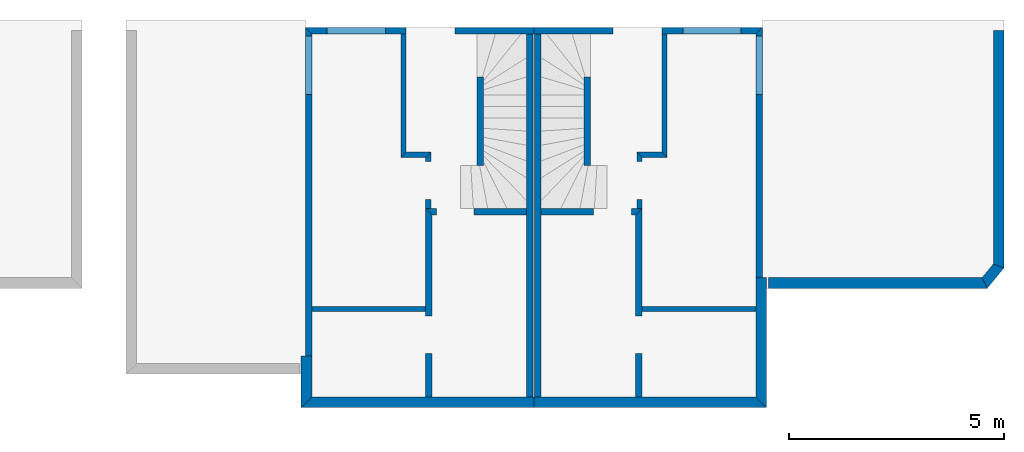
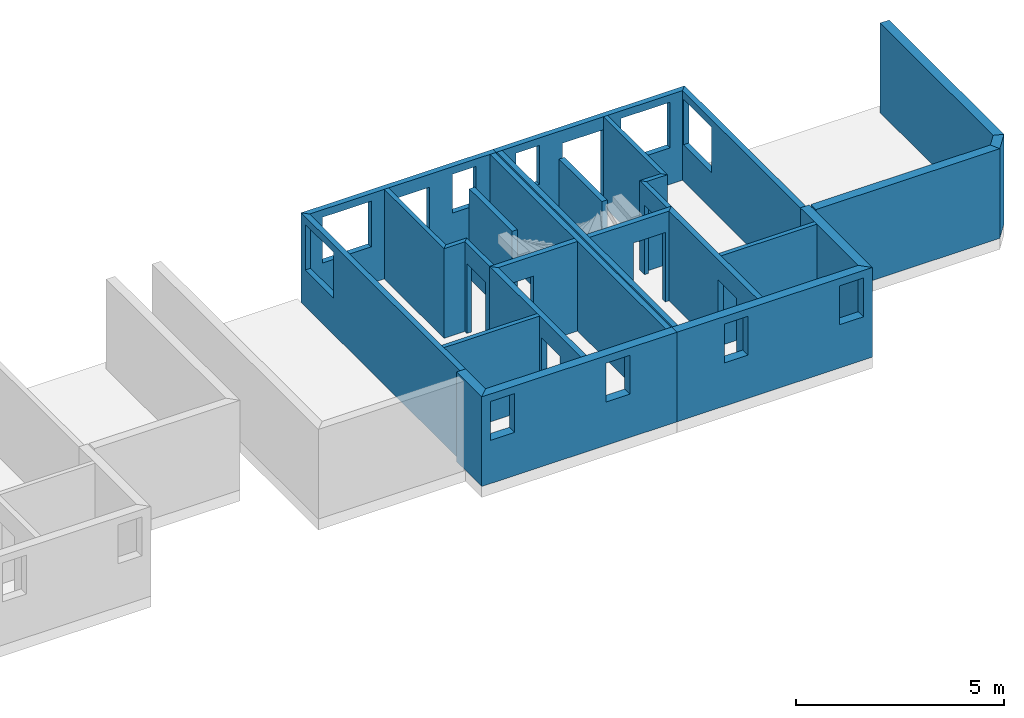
# One storey, part 2 of 2: 27 walls, 18 openings.
"""IFC2X3 building model written with IfcOpenShell, lengths in metres."""

from ifc_helpers import new_model, entity, si_unit, converted_unit, money_unit, direction, frame, origin_with_axes, origin_2d_with_axis, place, context, subcontext, project, spatial, polyline, rectangle, outline, extrude, material, layer, layer_set, layer_usage, type_object, element, save


model = new_model("IFC2X3")

# Units and contexts
model_context = context("Model", 3, precision=1e-05, world=origin_with_axes(), true_north=direction((0.0, 1.0)))
body_context = subcontext(model_context, "Body", "Model", "MODEL_VIEW")
ifc_project = project(units=[si_unit("LENGTHUNIT", "METRE"), si_unit("AREAUNIT", "SQUARE_METRE"), si_unit("VOLUMEUNIT", "CUBIC_METRE"), converted_unit("PLANEANGLEUNIT", "DEGREE", entity("IfcPlaneAngleMeasure", 0.0174532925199), si_unit("PLANEANGLEUNIT", "RADIAN"), dimensions=[0, 0, 0, 0, 0, 0, 0]), si_unit("SOLIDANGLEUNIT", "STERADIAN"), money_unit("EUR"), si_unit("TIMEUNIT", "SECOND"), si_unit("MASSUNIT", "GRAM"), si_unit("THERMODYNAMICTEMPERATUREUNIT", "DEGREE_CELSIUS"), si_unit("LUMINOUSINTENSITYUNIT", "LUMEN")], contexts=[model_context])

# Site, building, storey
site_placement = place(None, origin_with_axes())
site = spatial("IfcSite", under=ifc_project, at=site_placement, Name="Gelände", CompositionType="ELEMENT")
building_placement = place(site_placement, origin_with_axes())
building = spatial("IfcBuilding", under=site, at=building_placement, Name="Gebäude", CompositionType="ELEMENT")
storey_placement = place(building_placement, frame((0.0, 0.0, -2.63), z_axis=(0.0, 0.0, 1.0), x_axis=(1.0, 0.0, 0.0)))
storey = spatial("IfcBuildingStorey", under=building, at=storey_placement, Name="Untergeschoss", CompositionType="ELEMENT", Elevation=-2.63)

# Walls
ifc_material_1 = material(Name="Beton, Stahlbeton")
ifc_layer_1 = layer(ifc_material_1, 0.25, ventilated="UNKNOWN")
ifc_layer_set_1 = layer_set([ifc_layer_1], Name="Beton, Stahlbeton 0.25")
ifc_layer_usage_1 = layer_usage(ifc_layer_set_1, "AXIS2", "NEGATIVE", 0.0)
wall_type_1 = type_object("IfcWallType", Name="Beton, Stahlbeton 250", PredefinedType="NOTDEFINED")
wall_1_placement = place(storey_placement, frame((43.3239027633, 1.187793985, 0.0), z_axis=(0.0, 0.0, 1.0), x_axis=(0.0, -1.0, 0.0)))
element("IfcWallStandardCase", 1, at=wall_1_placement, inside=storey, type_object=wall_type_1, material=ifc_layer_usage_1, Name="Aussenwand D", context=body_context, shape_type="SweptSolid", body=[
    extrude(outline(polyline([(0.0, -0.25), (5.43537454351, -0.25), (5.5248332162, 0.0), (0.0, 0.0), (0.0, -0.25)])), origin_with_axes(), (0.0, 0.0, 1.0), 2.63),
])
ifc_layer_usage_2 = layer_usage(ifc_layer_set_1, "AXIS2", "NEGATIVE", 0.0)
wall_2_placement = place(storey_placement, frame((42.9339027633, -4.81220583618, 0.0), z_axis=(0.0, 0.0, 1.0), x_axis=(-1.0, 0.0, 0.0)))
element("IfcWallStandardCase", 2, at=wall_2_placement, inside=storey, type_object=wall_type_1, material=ifc_layer_usage_2, Name="Aussenwand D", context=body_context, shape_type="SweptSolid", body=[
    extrude(outline(polyline([(0.118233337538, -0.25), (5.09999988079, -0.25), (5.09999988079, 0.0), (0.0, 0.0), (0.118233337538, -0.25)])), origin_with_axes(), (0.0, 0.0, 1.0), 2.63),
])
ifc_layer_usage_3 = layer_usage(ifc_layer_set_1, "AXIS2", "NEGATIVE", 0.0)
wall_3_placement = place(storey_placement, frame((37.7939028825, -4.56220583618, 0.0), z_axis=(0.0, 0.0, 1.0), x_axis=(0.0, -1.0, 0.0)))
element("IfcWallStandardCase", 3, at=wall_3_placement, inside=storey, type_object=wall_type_1, material=ifc_layer_usage_3, Name="Aussenwand D", context=body_context, shape_type="SweptSolid", body=[
    extrude(outline(polyline([(0.0, -0.25), (2.78000010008, -0.25), (3.03000010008, 0.0), (0.0, 0.0), (0.0, -0.25)])), origin_with_axes(), (0.0, 0.0, 1.0), 2.63),
])

# Wall, openings
ifc_layer_usage_4 = layer_usage(ifc_layer_set_1, "AXIS2", "NEGATIVE", 0.0)
wall_4_placement = place(storey_placement, frame((37.7939028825, -7.59220593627, 0.0), z_axis=(0.0, 0.0, 1.0), x_axis=(-1.0, 0.0, 0.0)))
wall_4 = element("IfcWallStandardCase", 4, at=wall_4_placement, inside=storey, type_object=wall_type_1, material=ifc_layer_usage_4, Name="Aussenwand D", context=body_context, shape_type="SweptSolid", body=[
    extrude(outline(polyline([(0.25, -0.25), (5.41996185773, -0.25), (5.41996185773, 0.0), (0.0, 0.0), (0.25, -0.25)])), origin_with_axes(), (0.0, 0.0, 1.0), 2.63),
])
opening_1_placement = place(wall_4_placement, frame((0.58, 0.0, 1.27), z_axis=(0.0, 0.0, 1.0), x_axis=(1.0, 0.0, 0.0)))
element("IfcOpeningElement", 5, at=opening_1_placement, cuts=wall_4, Name="Fenster D", context=body_context, shape_type="SweptSolid", body=[
    extrude(rectangle(XDim=0.66, YDim=1.14, at=origin_2d_with_axis()), frame((0.0, -0.1, 0.57), z_axis=(0.0, 1.0, 0.0), x_axis=(1.0, 0.0, 0.0)), (0.0, 0.0, -1.0), 0.25),
    extrude(rectangle(XDim=0.66, YDim=1.14, at=origin_2d_with_axis()), frame((0.0, -0.1, 0.57), z_axis=(0.0, -1.0, 0.0), x_axis=(1.0, 0.0, 0.0)), (0.0, 0.0, -1.0), 0.25),
])
opening_2_placement = place(wall_4_placement, frame((3.78, 0.0, 1.27), z_axis=(0.0, 0.0, 1.0), x_axis=(1.0, 0.0, 0.0)))
element("IfcOpeningElement", 6, at=opening_2_placement, cuts=wall_4, Name="Fenster D", context=body_context, shape_type="SweptSolid", body=[
    extrude(rectangle(XDim=0.66, YDim=1.14, at=origin_2d_with_axis()), frame((0.0, -0.15, 0.57), z_axis=(0.0, -1.0, 0.0), x_axis=(1.0, 0.0, 0.0)), (0.0, 0.0, -1.0), 0.25),
    extrude(rectangle(XDim=0.66, YDim=1.14, at=origin_2d_with_axis()), frame((0.0, -0.15, 0.57), z_axis=(0.0, 1.0, 0.0), x_axis=(1.0, 0.0, 0.0)), (0.0, 0.0, -1.0), 0.25),
])

# Walls
ifc_layer_usage_5 = layer_usage(ifc_layer_set_1, "AXIS2", "POSITIVE", 0.0)
wall_5_placement = place(storey_placement, frame((42.9339027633, -4.81220583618, 0.0), z_axis=(0.0, 0.0, 1.0), x_axis=(0.634432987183, 0.77297786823, 0.0)))
element("IfcWallStandardCase", 7, at=wall_5_placement, inside=storey, type_object=wall_type_1, material=ifc_layer_usage_5, Name="Aussenwand D", context=body_context, shape_type="SweptSolid", body=[
    extrude(outline(polyline([(0.0, 0.0), (0.614722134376, 0.0), (0.525263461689, 0.25), (0.118233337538, 0.25), (0.0, 0.0)])), origin_with_axes(), (0.0, 0.0, 1.0), 2.63),
])
ifc_layer_usage_6 = layer_usage(ifc_layer_set_1, "AXIS2", "POSITIVE", 0.0)
wall_6_placement = place(storey_placement, frame((26.9539791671, -6.38220593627, 0.0), z_axis=(0.0, 0.0, 1.0), x_axis=(0.0, -1.0, 0.0)))
element("IfcWallStandardCase", 8, at=wall_6_placement, inside=storey, type_object=wall_type_1, material=ifc_layer_usage_6, Name="Aussenwand C", context=body_context, shape_type="SweptSolid", body=[
    extrude(outline(polyline([(0.0, 0.0), (1.21, 0.0), (0.96, 0.25), (0.0, 0.25), (0.0, 0.0)])), origin_with_axes(), (0.0, 0.0, 1.0), 2.63),
])

# Wall, openings
ifc_layer_usage_7 = layer_usage(ifc_layer_set_1, "AXIS2", "POSITIVE", 0.0)
wall_7_placement = place(storey_placement, frame((26.9539791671, -7.59220593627, 0.0), z_axis=(0.0, 0.0, 1.0), x_axis=(1.0, 0.0, 0.0)))
wall_7 = element("IfcWallStandardCase", 9, at=wall_7_placement, inside=storey, type_object=wall_type_1, material=ifc_layer_usage_7, Name="Aussenwand C", context=body_context, shape_type="SweptSolid", body=[
    extrude(outline(polyline([(0.0, 0.0), (5.41996185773, 0.0), (5.41996185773, 0.25), (0.25, 0.25), (0.0, 0.0)])), origin_with_axes(), (0.0, 0.0, 1.0), 2.63),
])
opening_3_placement = place(wall_7_placement, frame((0.58, 0.0, 1.27), z_axis=(0.0, 0.0, 1.0), x_axis=(1.0, 0.0, 0.0)))
element("IfcOpeningElement", 10, at=opening_3_placement, cuts=wall_7, Name="Fenster C", context=body_context, shape_type="SweptSolid", body=[
    extrude(rectangle(XDim=0.66, YDim=1.14, at=origin_2d_with_axis()), frame((0.0, 0.1, 0.57), z_axis=(0.0, -1.0, 0.0), x_axis=(1.0, 0.0, 0.0)), (0.0, 0.0, -1.0), 0.25),
    extrude(rectangle(XDim=0.66, YDim=1.14, at=origin_2d_with_axis()), frame((0.0, 0.1, 0.57), z_axis=(0.0, 1.0, 0.0), x_axis=(1.0, 0.0, 0.0)), (0.0, 0.0, -1.0), 0.25),
])
opening_4_placement = place(wall_7_placement, frame((3.78, 0.0, 1.27), z_axis=(0.0, 0.0, 1.0), x_axis=(1.0, 0.0, 0.0)))
element("IfcOpeningElement", 11, at=opening_4_placement, cuts=wall_7, Name="Fenster C", context=body_context, shape_type="SweptSolid", body=[
    extrude(rectangle(XDim=0.66, YDim=1.14, at=origin_2d_with_axis()), frame((0.0, 0.15, 0.57), z_axis=(0.0, 1.0, 0.0), x_axis=(1.0, 0.0, 0.0)), (0.0, 0.0, -1.0), 0.25),
    extrude(rectangle(XDim=0.66, YDim=1.14, at=origin_2d_with_axis()), frame((0.0, 0.15, 0.57), z_axis=(0.0, -1.0, 0.0), x_axis=(1.0, 0.0, 0.0)), (0.0, 0.0, -1.0), 0.25),
])

# Wall, opening
ifc_layer_2 = layer(ifc_material_1, 0.15, ventilated="UNKNOWN")
ifc_layer_set_2 = layer_set([ifc_layer_2], Name="Beton, Stahlbeton 0.15")
ifc_layer_usage_8 = layer_usage(ifc_layer_set_2, "AXIS2", "NEGATIVE", 0.0)
wall_type_2 = type_object("IfcWallType", Name="Beton, Stahlbeton 150", PredefinedType="NOTDEFINED")
wall_8_placement = place(storey_placement, frame((37.5439028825, -4.56220583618, 0.0), z_axis=(0.0, 0.0, 1.0), x_axis=(0.0, 1.0, 0.0)))
wall_8 = element("IfcWallStandardCase", 12, at=wall_8_placement, inside=storey, type_object=wall_type_2, material=ifc_layer_usage_8, Name="Aussenwand D", context=body_context, shape_type="SweptSolid", body=[
    extrude(outline(polyline([(0.0, -0.15), (5.81999982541, -0.15), (5.66999982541, 0.0), (0.0, 0.0), (0.0, -0.15)])), origin_with_axes(), (0.0, 0.0, 1.0), 2.63),
])
opening_5_placement = place(wall_8_placement, frame((4.94232744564, 0.0, 1.07), z_axis=(0.0, 0.0, 1.0), x_axis=(1.0, 0.0, 0.0)))
element("IfcOpeningElement", 13, at=opening_5_placement, cuts=wall_8, Name="Fenster D", context=body_context, shape_type="SweptSolid", body=[
    extrude(rectangle(XDim=1.36, YDim=1.34, at=origin_2d_with_axis()), frame((0.0, 0.0, 0.67), z_axis=(0.0, 1.0, 0.0), x_axis=(1.0, 0.0, 0.0)), (0.0, 0.0, -1.0), 0.15),
    extrude(rectangle(XDim=1.36, YDim=1.34, at=origin_2d_with_axis()), frame((0.0, 0.0, 0.67), z_axis=(0.0, -1.0, 0.0), x_axis=(1.0, 0.0, 0.0)), (0.0, 0.0, -1.0), 0.15),
])

# Wall, openings
ifc_layer_usage_9 = layer_usage(ifc_layer_set_2, "AXIS2", "POSITIVE", 0.0)
wall_9_placement = place(storey_placement, frame((37.5439028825, 1.25779398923, 0.0), z_axis=(0.0, 0.0, 1.0), x_axis=(-1.0, 0.0, 0.0)))
wall_9 = element("IfcWallStandardCase", 14, at=wall_9_placement, inside=storey, type_object=wall_type_2, material=ifc_layer_usage_9, Name="Aussenwand D", context=body_context, shape_type="SweptSolid", body=[
    extrude(outline(polyline([(-0.15, 0.0), (5.16996185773, 0.0), (5.16996185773, 0.15), (0.0, 0.15), (-0.15, 0.0)])), origin_with_axes(), (0.0, 0.0, 1.0), 2.63),
])
opening_6_placement = place(wall_9_placement, frame((4.29, 0.0, 1.27), z_axis=(0.0, 0.0, 1.0), x_axis=(1.0, 0.0, 0.0)))
element("IfcOpeningElement", 15, at=opening_6_placement, cuts=wall_9, Name="Fenster D", context=body_context, shape_type="SweptSolid", body=[
    extrude(rectangle(XDim=0.66, YDim=1.14, at=origin_2d_with_axis()), frame((0.0, 0.0, 0.57), z_axis=(0.0, -1.0, 0.0), x_axis=(1.0, 0.0, 0.0)), (0.0, 0.0, -1.0), 0.15),
    extrude(rectangle(XDim=0.66, YDim=1.14, at=origin_2d_with_axis()), frame((0.0, 0.0, 0.57), z_axis=(0.0, 1.0, 0.0), x_axis=(1.0, 0.0, 0.0)), (0.0, 0.0, -1.0), 0.15),
])
opening_7_placement = place(wall_9_placement, frame((1.02, 0.0, 1.07), z_axis=(0.0, 0.0, 1.0), x_axis=(1.0, 0.0, 0.0)))
element("IfcOpeningElement", 16, at=opening_7_placement, cuts=wall_9, Name="Fenster A", context=body_context, shape_type="SweptSolid", body=[
    extrude(rectangle(XDim=1.36, YDim=1.34, at=origin_2d_with_axis()), frame((0.0, 0.0, 0.67), z_axis=(0.0, -1.0, 0.0), x_axis=(1.0, 0.0, 0.0)), (0.0, 0.0, -1.0), 0.15),
    extrude(rectangle(XDim=1.36, YDim=1.34, at=origin_2d_with_axis()), frame((0.0, 0.0, 0.67), z_axis=(0.0, 1.0, 0.0), x_axis=(1.0, 0.0, 0.0)), (0.0, 0.0, -1.0), 0.15),
])
opening_8_placement = place(wall_9_placement, frame((2.76, 0.0, 0.0), z_axis=(0.0, 0.0, 1.0), x_axis=(1.0, 0.0, 0.0)))
element("IfcOpeningElement", 17, at=opening_8_placement, cuts=wall_9, Name="Tür D", context=body_context, shape_type="SweptSolid", body=[
    extrude(rectangle(XDim=1.14, YDim=2.25, at=origin_2d_with_axis()), frame((0.0, 0.15, 1.125), z_axis=(0.0, -1.0, 0.0), x_axis=(1.0, 0.0, 0.0)), (0.0, 0.0, -1.0), 0.15),
    extrude(rectangle(XDim=1.14, YDim=2.25, at=origin_2d_with_axis()), frame((0.0, 0.15, 1.125), z_axis=(0.0, 1.0, 0.0), x_axis=(1.0, 0.0, 0.0)), (0.0, 0.0, -1.0), 0.15),
])

# Wall, opening
ifc_layer_usage_10 = layer_usage(ifc_layer_set_2, "AXIS2", "POSITIVE", 0.0)
wall_10_placement = place(storey_placement, frame((27.2039791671, -6.38220593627, 0.0), z_axis=(0.0, 0.0, 1.0), x_axis=(0.0, 1.0, 0.0)))
wall_10 = element("IfcWallStandardCase", 18, at=wall_10_placement, inside=storey, type_object=wall_type_2, material=ifc_layer_usage_10, Name="Aussenwand C", context=body_context, shape_type="SweptSolid", body=[
    extrude(outline(polyline([(0.0, 0.0), (7.48999992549, 0.0), (7.63999992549, 0.15), (0.0, 0.15), (0.0, 0.0)])), origin_with_axes(), (0.0, 0.0, 1.0), 2.63),
])
opening_9_placement = place(wall_10_placement, frame((6.76232754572, 0.0, 1.07), z_axis=(0.0, 0.0, 1.0), x_axis=(1.0, 0.0, 0.0)))
element("IfcOpeningElement", 19, at=opening_9_placement, cuts=wall_10, Name="Fenster C", context=body_context, shape_type="SweptSolid", body=[
    extrude(rectangle(XDim=1.36, YDim=1.34, at=origin_2d_with_axis()), frame((0.0, 0.0, 0.67), z_axis=(0.0, -1.0, 0.0), x_axis=(1.0, 0.0, 0.0)), (0.0, 0.0, -1.0), 0.15),
    extrude(rectangle(XDim=1.36, YDim=1.34, at=origin_2d_with_axis()), frame((0.0, 0.0, 0.67), z_axis=(0.0, 1.0, 0.0), x_axis=(1.0, 0.0, 0.0)), (0.0, 0.0, -1.0), 0.15),
])

# Wall, openings
ifc_layer_usage_11 = layer_usage(ifc_layer_set_2, "AXIS2", "NEGATIVE", 0.0)
wall_11_placement = place(storey_placement, frame((27.2039791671, 1.25779398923, 0.0), z_axis=(0.0, 0.0, 1.0), x_axis=(1.0, 0.0, 0.0)))
wall_11 = element("IfcWallStandardCase", 20, at=wall_11_placement, inside=storey, type_object=wall_type_2, material=ifc_layer_usage_11, Name="Aussenwand C", context=body_context, shape_type="SweptSolid", body=[
    extrude(outline(polyline([(0.0, -0.15), (5.16996185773, -0.15), (5.16996185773, 0.0), (-0.15, 0.0), (0.0, -0.15)])), origin_with_axes(), (0.0, 0.0, 1.0), 2.63),
])
opening_10_placement = place(wall_11_placement, frame((4.29, 0.0, 1.27), z_axis=(0.0, 0.0, 1.0), x_axis=(1.0, 0.0, 0.0)))
element("IfcOpeningElement", 21, at=opening_10_placement, cuts=wall_11, Name="Fenster C", context=body_context, shape_type="SweptSolid", body=[
    extrude(rectangle(XDim=0.66, YDim=1.14, at=origin_2d_with_axis()), frame((0.0, 0.0, 0.57), z_axis=(0.0, 1.0, 0.0), x_axis=(1.0, 0.0, 0.0)), (0.0, 0.0, -1.0), 0.15),
    extrude(rectangle(XDim=0.66, YDim=1.14, at=origin_2d_with_axis()), frame((0.0, 0.0, 0.57), z_axis=(0.0, -1.0, 0.0), x_axis=(1.0, 0.0, 0.0)), (0.0, 0.0, -1.0), 0.15),
])
opening_11_placement = place(wall_11_placement, frame((1.03, 0.0, 1.07), z_axis=(0.0, 0.0, 1.0), x_axis=(1.0, 0.0, 0.0)))
element("IfcOpeningElement", 22, at=opening_11_placement, cuts=wall_11, Name="Fenster A", context=body_context, shape_type="SweptSolid", body=[
    extrude(rectangle(XDim=1.36, YDim=1.34, at=origin_2d_with_axis()), frame((0.0, 0.0, 0.67), z_axis=(0.0, 1.0, 0.0), x_axis=(1.0, 0.0, 0.0)), (0.0, 0.0, -1.0), 0.15),
    extrude(rectangle(XDim=1.36, YDim=1.34, at=origin_2d_with_axis()), frame((0.0, 0.0, 0.67), z_axis=(0.0, -1.0, 0.0), x_axis=(1.0, 0.0, 0.0)), (0.0, 0.0, -1.0), 0.15),
])
opening_12_placement = place(wall_11_placement, frame((2.76, 0.0, 0.0), z_axis=(0.0, 0.0, 1.0), x_axis=(1.0, 0.0, 0.0)))
element("IfcOpeningElement", 23, at=opening_12_placement, cuts=wall_11, Name="Tür C", context=body_context, shape_type="SweptSolid", body=[
    extrude(rectangle(XDim=1.14, YDim=2.25, at=origin_2d_with_axis()), frame((0.0, -0.15, 1.125), z_axis=(0.0, 1.0, 0.0), x_axis=(1.0, 0.0, 0.0)), (0.0, 0.0, -1.0), 0.15),
    extrude(rectangle(XDim=1.14, YDim=2.25, at=origin_2d_with_axis()), frame((0.0, -0.15, 1.125), z_axis=(0.0, -1.0, 0.0), x_axis=(1.0, 0.0, 0.0)), (0.0, 0.0, -1.0), 0.15),
])

# Walls
ifc_material_2 = material(Name="MW, Kalksandstein")
ifc_layer_3 = layer(ifc_material_2, 0.12, ventilated="UNKNOWN")
ifc_layer_set_3 = layer_set([ifc_layer_3], Name="MW, Kalksandstein 0.12")
ifc_layer_usage_12 = layer_usage(ifc_layer_set_3, "AXIS2", "NEGATIVE", 0.0)
wall_type_3 = type_object("IfcWallType", Name="MW, Kalksandstein 120", PredefinedType="NOTDEFINED")
wall_12_placement = place(storey_placement, frame((37.7939028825, -5.35220593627, 0.0), z_axis=(0.0, 0.0, 1.0), x_axis=(-1.0, 0.0, 0.0)))
element("IfcWallStandardCase", 24, at=wall_12_placement, inside=storey, type_object=wall_type_3, material=ifc_layer_usage_12, Name="Innenwand D", context=body_context, shape_type="SweptSolid", body=[
    extrude(outline(polyline([(0.25, -0.12), (2.9, -0.12), (2.9, 0.0), (0.25, 0.0), (0.25, -0.12)])), origin_with_axes(), (0.0, 0.0, 1.0), 2.63),
])
ifc_layer_usage_13 = layer_usage(ifc_layer_set_3, "AXIS2", "POSITIVE", 0.0)
wall_13_placement = place(storey_placement, frame((34.8939028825, -1.76220593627, 0.0), z_axis=(0.0, 0.0, 1.0), x_axis=(1.0, 0.0, 0.0)))
element("IfcWallStandardCase", 25, at=wall_13_placement, inside=storey, type_object=wall_type_3, material=ifc_layer_usage_13, Name="Innenwand D", context=body_context, shape_type="SweptSolid", body=[
    extrude(outline(polyline([(0.0, 0.0), (0.58, 0.0), (0.46, 0.12), (-0.12, 0.12), (0.0, 0.0)])), origin_with_axes(), (0.0, 0.0, 1.0), 2.63),
])
ifc_layer_usage_14 = layer_usage(ifc_layer_set_3, "AXIS2", "POSITIVE", 0.0)
wall_14_placement = place(storey_placement, frame((35.4739028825, -1.76220593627, 0.0), z_axis=(0.0, 0.0, 1.0), x_axis=(0.0, 1.0, 0.0)))
element("IfcWallStandardCase", 26, at=wall_14_placement, inside=storey, type_object=wall_type_3, material=ifc_layer_usage_14, Name="Innenwand D", context=body_context, shape_type="SweptSolid", body=[
    extrude(outline(polyline([(0.0, 0.0), (2.86999992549, 0.0), (2.86999992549, 0.12), (0.12, 0.12), (0.0, 0.0)])), origin_with_axes(), (0.0, 0.0, 1.0), 2.63),
])

# Wall, opening
ifc_layer_usage_15 = layer_usage(ifc_layer_set_3, "AXIS2", "POSITIVE", 0.0)
wall_15_placement = place(storey_placement, frame((34.8939028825, -2.95220593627, 0.0), z_axis=(0.0, 0.0, 1.0), x_axis=(0.0, 1.0, 0.0)))
wall_15 = element("IfcWallStandardCase", 27, at=wall_15_placement, inside=storey, type_object=wall_type_3, material=ifc_layer_usage_15, Name="Innenwand D", context=body_context, shape_type="SweptSolid", body=[
    extrude(outline(polyline([(0.0, 0.0), (1.19, 0.0), (1.31, 0.12), (0.0, 0.12), (0.0, 0.0)])), origin_with_axes(), (0.0, 0.0, 1.0), 2.63),
])
opening_13_placement = place(wall_15_placement, frame((0.65, 0.0, 0.0), z_axis=(0.0, 0.0, 1.0), x_axis=(1.0, 0.0, 0.0)))
element("IfcOpeningElement", 28, at=opening_13_placement, cuts=wall_15, Name="Tür D", context=body_context, shape_type="SweptSolid", body=[
    extrude(rectangle(XDim=0.88, YDim=2.04, at=origin_2d_with_axis()), frame((0.0, 0.0, 1.02), z_axis=(0.0, 1.0, 0.0), x_axis=(1.0, 0.0, 0.0)), (0.0, 0.0, -1.0), 0.12),
    extrude(rectangle(XDim=0.88, YDim=2.04, at=origin_2d_with_axis()), frame((0.0, 0.0, 1.02), z_axis=(0.0, -1.0, 0.0), x_axis=(1.0, 0.0, 0.0)), (0.0, 0.0, -1.0), 0.12),
])

# Walls
ifc_layer_usage_16 = layer_usage(ifc_layer_set_3, "AXIS2", "POSITIVE", 0.0)
wall_16_placement = place(storey_placement, frame((27.2039791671, -5.35220593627, 0.0), z_axis=(0.0, 0.0, 1.0), x_axis=(1.0, 0.0, 0.0)))
element("IfcWallStandardCase", 29, at=wall_16_placement, inside=storey, type_object=wall_type_3, material=ifc_layer_usage_16, Name="Innenwand C", context=body_context, shape_type="SweptSolid", body=[
    extrude(outline(polyline([(0.0, 0.0), (2.65, 0.0), (2.65, 0.12), (0.0, 0.12), (0.0, 0.0)])), origin_with_axes(), (0.0, 0.0, 1.0), 2.63),
])
ifc_layer_usage_17 = layer_usage(ifc_layer_set_3, "AXIS2", "NEGATIVE", 0.0)
wall_17_placement = place(storey_placement, frame((29.8539791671, -1.76220593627, 0.0), z_axis=(0.0, 0.0, 1.0), x_axis=(-1.0, 0.0, 0.0)))
element("IfcWallStandardCase", 30, at=wall_17_placement, inside=storey, type_object=wall_type_3, material=ifc_layer_usage_17, Name="Innenwand C", context=body_context, shape_type="SweptSolid", body=[
    extrude(outline(polyline([(-0.12, -0.12), (0.46, -0.12), (0.58, 0.0), (0.0, 0.0), (-0.12, -0.12)])), origin_with_axes(), (0.0, 0.0, 1.0), 2.63),
])
ifc_layer_usage_18 = layer_usage(ifc_layer_set_3, "AXIS2", "NEGATIVE", 0.0)
wall_18_placement = place(storey_placement, frame((29.2739791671, -1.76220593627, 0.0), z_axis=(0.0, 0.0, 1.0), x_axis=(0.0, 1.0, 0.0)))
element("IfcWallStandardCase", 31, at=wall_18_placement, inside=storey, type_object=wall_type_3, material=ifc_layer_usage_18, Name="Innenwand C", context=body_context, shape_type="SweptSolid", body=[
    extrude(outline(polyline([(0.12, -0.12), (2.86999992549, -0.12), (2.86999992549, 0.0), (0.0, 0.0), (0.12, -0.12)])), origin_with_axes(), (0.0, 0.0, 1.0), 2.63),
])

# Wall, opening
ifc_layer_usage_19 = layer_usage(ifc_layer_set_3, "AXIS2", "NEGATIVE", 0.0)
wall_19_placement = place(storey_placement, frame((29.8539791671, -2.95220593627, 0.0), z_axis=(0.0, 0.0, 1.0), x_axis=(0.0, 1.0, 0.0)))
wall_19 = element("IfcWallStandardCase", 32, at=wall_19_placement, inside=storey, type_object=wall_type_3, material=ifc_layer_usage_19, Name="Innenwand C", context=body_context, shape_type="SweptSolid", body=[
    extrude(outline(polyline([(0.0, -0.12), (1.31, -0.12), (1.19, 0.0), (0.0, 0.0), (0.0, -0.12)])), origin_with_axes(), (0.0, 0.0, 1.0), 2.63),
])
opening_14_placement = place(wall_19_placement, frame((0.65, 0.0, 0.0), z_axis=(0.0, 0.0, 1.0), x_axis=(1.0, 0.0, 0.0)))
element("IfcOpeningElement", 33, at=opening_14_placement, cuts=wall_19, Name="Tür C", context=body_context, shape_type="SweptSolid", body=[
    extrude(rectangle(XDim=0.88, YDim=2.04, at=origin_2d_with_axis()), frame((0.0, 0.0, 1.02), z_axis=(0.0, -1.0, 0.0), x_axis=(1.0, 0.0, 0.0)), (0.0, 0.0, -1.0), 0.12),
    extrude(rectangle(XDim=0.88, YDim=2.04, at=origin_2d_with_axis()), frame((0.0, 0.0, 1.02), z_axis=(0.0, 1.0, 0.0), x_axis=(1.0, 0.0, 0.0)), (0.0, 0.0, -1.0), 0.12),
])

ifc_layer_4 = layer(ifc_material_2, 0.15, ventilated="UNKNOWN")
ifc_layer_set_4 = layer_set([ifc_layer_4], Name="MW, Kalksandstein 0.15")
ifc_layer_usage_20 = layer_usage(ifc_layer_set_4, "AXIS2", "POSITIVE", 0.0)
wall_type_4 = type_object("IfcWallType", Name="MW, Kalksandstein 150", PredefinedType="NOTDEFINED")
wall_20_placement = place(storey_placement, frame((34.8939028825, -7.59220593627, 0.0), z_axis=(0.0, 0.0, 1.0), x_axis=(0.0, 1.0, 0.0)))
wall_20 = element("IfcWallStandardCase", 34, at=wall_20_placement, inside=storey, type_object=wall_type_4, material=ifc_layer_usage_20, Name="Innenwand D", context=body_context, shape_type="SweptSolid", body=[
    extrude(outline(polyline([(0.25, 0.0), (4.64, 0.0), (4.49, 0.15), (0.25, 0.15), (0.25, 0.0)])), origin_with_axes(), (0.0, 0.0, 1.0), 2.63),
])
opening_15_placement = place(wall_20_placement, frame((1.7, 0.0, 0.0), z_axis=(0.0, 0.0, 1.0), x_axis=(1.0, 0.0, 0.0)))
element("IfcOpeningElement", 35, at=opening_15_placement, cuts=wall_20, Name="Tür D", context=body_context, shape_type="SweptSolid", body=[
    extrude(rectangle(XDim=0.88, YDim=2.04, at=origin_2d_with_axis()), frame((0.0, 0.0, 1.02), z_axis=(0.0, 1.0, 0.0), x_axis=(1.0, 0.0, 0.0)), (0.0, 0.0, -1.0), 0.15),
    extrude(rectangle(XDim=0.88, YDim=2.04, at=origin_2d_with_axis()), frame((0.0, 0.0, 1.02), z_axis=(0.0, -1.0, 0.0), x_axis=(1.0, 0.0, 0.0)), (0.0, 0.0, -1.0), 0.15),
])

ifc_layer_usage_21 = layer_usage(ifc_layer_set_4, "AXIS2", "POSITIVE", 0.0)
wall_21_placement = place(storey_placement, frame((34.8939028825, -2.95220593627, 0.0), z_axis=(0.0, 0.0, 1.0), x_axis=(-1.0, 0.0, 0.0)))
wall_21 = element("IfcWallStandardCase", 36, at=wall_21_placement, inside=storey, type_object=wall_type_4, material=ifc_layer_usage_21, Name="Innenwand D", context=body_context, shape_type="SweptSolid", body=[
    extrude(outline(polyline([(0.0, 0.0), (2.34996185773, 0.0), (2.34996185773, 0.15), (0.15, 0.15), (0.0, 0.0)])), origin_with_axes(), (0.0, 0.0, 1.0), 2.63),
])
opening_16_placement = place(wall_21_placement, frame((0.69, 0.0, 0.0), z_axis=(0.0, 0.0, 1.0), x_axis=(1.0, 0.0, 0.0)))
element("IfcOpeningElement", 37, at=opening_16_placement, cuts=wall_21, Name="Tür D", context=body_context, shape_type="SweptSolid", body=[
    extrude(rectangle(XDim=0.88, YDim=2.04, at=origin_2d_with_axis()), frame((0.0, 0.0, 1.02), z_axis=(0.0, 1.0, 0.0), x_axis=(1.0, 0.0, 0.0)), (0.0, 0.0, -1.0), 0.15),
    extrude(rectangle(XDim=0.88, YDim=2.04, at=origin_2d_with_axis()), frame((0.0, 0.0, 1.02), z_axis=(0.0, -1.0, 0.0), x_axis=(1.0, 0.0, 0.0)), (0.0, 0.0, -1.0), 0.15),
])

# Walls
ifc_layer_usage_22 = layer_usage(ifc_layer_set_4, "AXIS2", "NEGATIVE", 0.0)
wall_22_placement = place(storey_placement, frame((32.3939410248, -7.59220593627, 0.0), z_axis=(0.0, 0.0, 1.0), x_axis=(0.0, 1.0, 0.0)))
element("IfcWallStandardCase", 38, at=wall_22_placement, inside=storey, type_object=wall_type_4, material=ifc_layer_usage_22, Name="Zwischenwand D", context=body_context, shape_type="SweptSolid", body=[
    extrude(outline(polyline([(0.25, -0.15), (8.69999992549, -0.15), (8.69999992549, 0.0), (0.25, 0.0), (0.25, -0.15)])), origin_with_axes(), (0.0, 0.0, 1.0), 2.63),
])
ifc_layer_usage_23 = layer_usage(ifc_layer_set_4, "AXIS2", "NEGATIVE", 0.0)
wall_23_placement = place(storey_placement, frame((33.5439410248, -1.95220593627, 0.0), z_axis=(0.0, 0.0, 1.0), x_axis=(0.0, 1.0, 0.0)))
element("IfcWallStandardCase", 39, at=wall_23_placement, inside=storey, type_object=wall_type_4, material=ifc_layer_usage_23, Name="Innenwand D", context=body_context, shape_type="SweptSolid", body=[
    extrude(outline(polyline([(0.0, -0.15), (2.05999992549, -0.15), (2.05999992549, 0.0), (0.0, 0.0), (0.0, -0.15)])), origin_with_axes(), (0.0, 0.0, 1.0), 2.63),
])

# Wall, opening
ifc_layer_usage_24 = layer_usage(ifc_layer_set_4, "AXIS2", "NEGATIVE", 0.0)
wall_24_placement = place(storey_placement, frame((29.8539791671, -7.59220593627, 0.0), z_axis=(0.0, 0.0, 1.0), x_axis=(0.0, 1.0, 0.0)))
wall_24 = element("IfcWallStandardCase", 40, at=wall_24_placement, inside=storey, type_object=wall_type_4, material=ifc_layer_usage_24, Name="Innenwand C", context=body_context, shape_type="SweptSolid", body=[
    extrude(outline(polyline([(0.25, -0.15), (4.49, -0.15), (4.64, 0.0), (0.25, 0.0), (0.25, -0.15)])), origin_with_axes(), (0.0, 0.0, 1.0), 2.63),
])
opening_17_placement = place(wall_24_placement, frame((1.7, 0.0, 0.0), z_axis=(0.0, 0.0, 1.0), x_axis=(1.0, 0.0, 0.0)))
element("IfcOpeningElement", 41, at=opening_17_placement, cuts=wall_24, Name="Tür C", context=body_context, shape_type="SweptSolid", body=[
    extrude(rectangle(XDim=0.88, YDim=2.04, at=origin_2d_with_axis()), frame((0.0, 0.0, 1.02), z_axis=(0.0, -1.0, 0.0), x_axis=(1.0, 0.0, 0.0)), (0.0, 0.0, -1.0), 0.15),
    extrude(rectangle(XDim=0.88, YDim=2.04, at=origin_2d_with_axis()), frame((0.0, 0.0, 1.02), z_axis=(0.0, 1.0, 0.0), x_axis=(1.0, 0.0, 0.0)), (0.0, 0.0, -1.0), 0.15),
])

ifc_layer_usage_25 = layer_usage(ifc_layer_set_4, "AXIS2", "NEGATIVE", 0.0)
wall_25_placement = place(storey_placement, frame((29.8539791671, -2.95220593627, 0.0), z_axis=(0.0, 0.0, 1.0), x_axis=(1.0, 0.0, 0.0)))
wall_25 = element("IfcWallStandardCase", 42, at=wall_25_placement, inside=storey, type_object=wall_type_4, material=ifc_layer_usage_25, Name="Innenwand C", context=body_context, shape_type="SweptSolid", body=[
    extrude(outline(polyline([(0.15, -0.15), (2.34996185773, -0.15), (2.34996185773, 0.0), (0.0, 0.0), (0.15, -0.15)])), origin_with_axes(), (0.0, 0.0, 1.0), 2.63),
])
opening_18_placement = place(wall_25_placement, frame((0.69, 0.0, 0.0), z_axis=(0.0, 0.0, 1.0), x_axis=(1.0, 0.0, 0.0)))
element("IfcOpeningElement", 43, at=opening_18_placement, cuts=wall_25, Name="Tür C", context=body_context, shape_type="SweptSolid", body=[
    extrude(rectangle(XDim=0.88, YDim=2.04, at=origin_2d_with_axis()), frame((0.0, 0.0, 1.02), z_axis=(0.0, -1.0, 0.0), x_axis=(1.0, 0.0, 0.0)), (0.0, 0.0, -1.0), 0.15),
    extrude(rectangle(XDim=0.88, YDim=2.04, at=origin_2d_with_axis()), frame((0.0, 0.0, 1.02), z_axis=(0.0, 1.0, 0.0), x_axis=(1.0, 0.0, 0.0)), (0.0, 0.0, -1.0), 0.15),
])

# Walls
ifc_layer_usage_26 = layer_usage(ifc_layer_set_4, "AXIS2", "POSITIVE", 0.0)
wall_26_placement = place(storey_placement, frame((32.3539410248, -7.59220593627, 0.0), z_axis=(0.0, 0.0, 1.0), x_axis=(0.0, 1.0, 0.0)))
element("IfcWallStandardCase", 44, at=wall_26_placement, inside=storey, type_object=wall_type_4, material=ifc_layer_usage_26, Name="Zwischenwand C", context=body_context, shape_type="SweptSolid", body=[
    extrude(outline(polyline([(0.25, 0.0), (8.69999992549, 0.0), (8.69999992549, 0.15), (0.25, 0.15), (0.25, 0.0)])), origin_with_axes(), (0.0, 0.0, 1.0), 2.63),
])
ifc_layer_usage_27 = layer_usage(ifc_layer_set_4, "AXIS2", "POSITIVE", 0.0)
wall_27_placement = place(storey_placement, frame((31.2039410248, -1.95220593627, 0.0), z_axis=(0.0, 0.0, 1.0), x_axis=(0.0, 1.0, 0.0)))
element("IfcWallStandardCase", 45, at=wall_27_placement, inside=storey, type_object=wall_type_4, material=ifc_layer_usage_27, Name="Innenwand C", context=body_context, shape_type="SweptSolid", body=[
    extrude(outline(polyline([(0.0, 0.0), (2.05999992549, 0.0), (2.05999992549, 0.15), (0.0, 0.15), (0.0, 0.0)])), origin_with_axes(), (0.0, 0.0, 1.0), 2.63),
])

save(model, "model.ifc")
